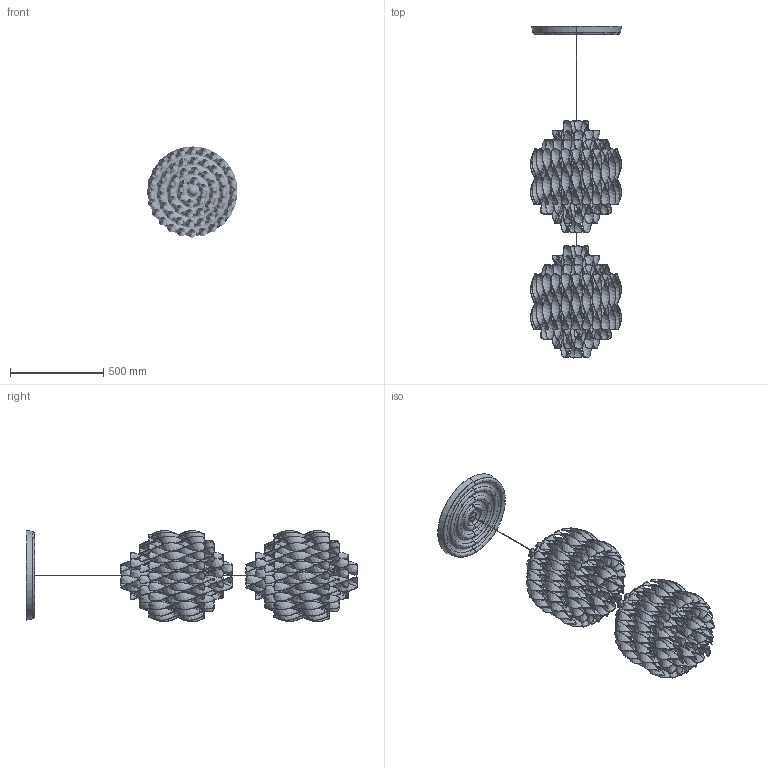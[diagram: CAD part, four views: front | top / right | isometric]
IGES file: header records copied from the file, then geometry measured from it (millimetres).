
Start section: SolidWorks IGES file using analytic representation for surfaces
Global section: file name: C:\Users\Chiina\Desktop\Chiina\Dokumendid\Frandsen Project\VerPan\SPIRAL SP2\SPIRAL SP2 Assembly.IGS; native system: SolidWorks 2013; preprocessor: SolidWorks 2013; author: Chiina; date: 130108.210719; units: millimetre
Bounding box: 486.9 x 1776.52 x 488.08 mm (x, y, z)
Surface area: 5243730.8 mm2 (no closed solid volume)
Topology: 0 solids, 0 shells, 1304 faces, 32516 edges, 32512 vertices
Faces by surface type: revolution 738, bspline 566
